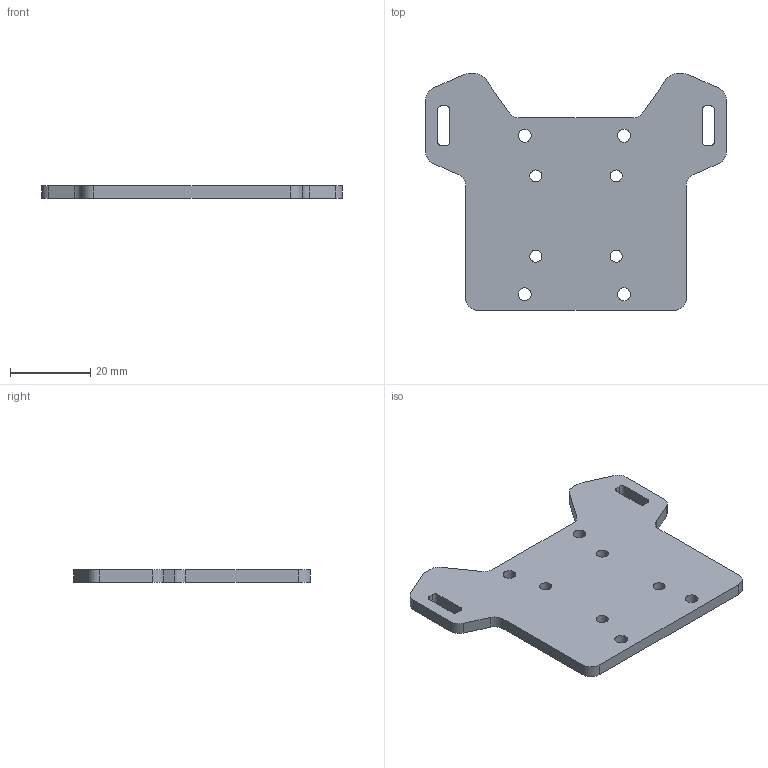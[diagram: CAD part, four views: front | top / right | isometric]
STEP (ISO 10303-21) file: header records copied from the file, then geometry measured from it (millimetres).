
FILE_DESCRIPTION(/* description */ (''),/* implementation_level */ '2;1');
FILE_NAME(/* name */ 'Backplate.step',/* time_stamp */ '2024-01-21T15:51:09+01:00',/* author */ (''),/* organization */ (''),/* preprocessor_version */ 'ST-DEVELOPER v20',/* originating_system */ 'Autodesk Translation Framework v12.14.0.127',/* authorisation */ '');
FILE_SCHEMA (('AUTOMOTIVE_DESIGN { 1 0 10303 214 3 1 1 }'));
Length unit declared in the file: millimetre
Products named in the file (1): Backplate
Bounding box: 75 x 59 x 3 mm (x, y, z)
Volume: 9359.1 mm3; surface area: 7396.4 mm2
Topology: 1 solids, 1 shells, 54 faces, 156 edges, 104 vertices
Faces by surface type: cylinder 30, plane 24
Full cylindrical faces by diameter (mm): 3 x4, 3.2 x4
Entity records: 1873 total; most frequent: DIRECTION 326, CARTESIAN_POINT 315, ORIENTED_EDGE 312, EDGE_CURVE 156, AXIS2_PLACEMENT_3D 115, VERTEX_POINT 104, LINE 96, VECTOR 96
